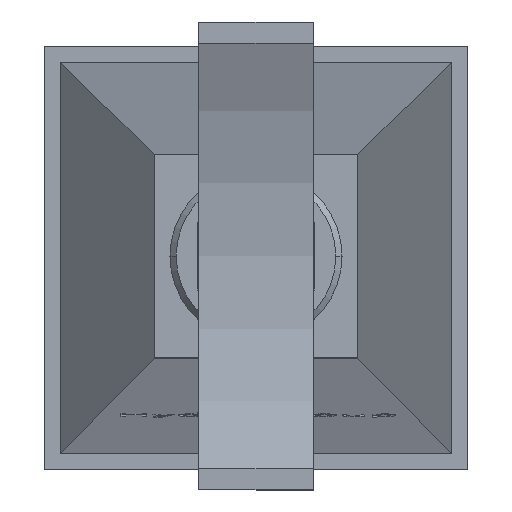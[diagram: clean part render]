
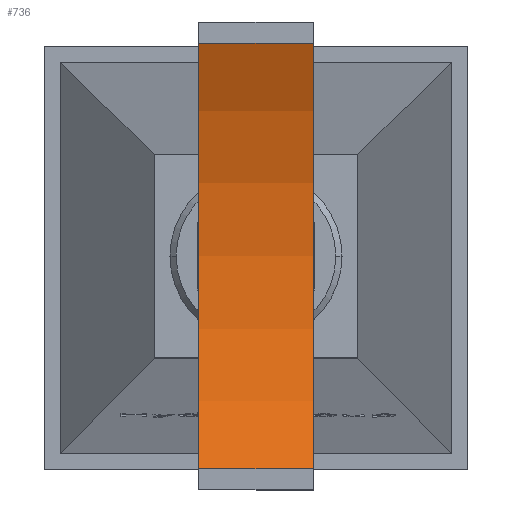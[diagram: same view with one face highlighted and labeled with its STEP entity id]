
A CAD part, top view. The second image highlights one B-rep face of the part: STEP entity #736.
In plain terms, the highlighted cylindrical face has radius 304.8 mm (diameter 609.6 mm), a partial arc.
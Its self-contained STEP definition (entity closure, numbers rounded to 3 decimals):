
#736=ADVANCED_FACE('',(#1458),#1459,.F.);
#1458=FACE_OUTER_BOUND('',#2205,.T.);
#1459=CYLINDRICAL_SURFACE('',#2206,304.8);
#2205=EDGE_LOOP('',(#4380,#4381,#4382,#4383));
#2206=AXIS2_PLACEMENT_3D('',#4384,#4385,#4386);
#4380=ORIENTED_EDGE('',*,*,#5190,.T.);
#4381=ORIENTED_EDGE('',*,*,#5191,.F.);
#4382=ORIENTED_EDGE('',*,*,#5192,.T.);
#4383=ORIENTED_EDGE('',*,*,#5187,.T.);
#4384=CARTESIAN_POINT('',(480.984,591.532,663.8));
#4385=DIRECTION('',(1.0,0.,0.));
#4386=DIRECTION('',(0.,1.0,0.));
#5187=EDGE_CURVE('',#6314,#6312,#6315,.T.);
#5190=EDGE_CURVE('',#6312,#6318,#6319,.T.);
#5191=EDGE_CURVE('',#6320,#6318,#6321,.T.);
#5192=EDGE_CURVE('',#6320,#6314,#6322,.T.);
#6312=VERTEX_POINT('',#8345);
#6314=VERTEX_POINT('',#8348);
#6315=LINE('',#8349,#8350);
#6318=VERTEX_POINT('',#8354);
#6319=CIRCLE('',#8355,304.8);
#6320=VERTEX_POINT('',#8356);
#6321=LINE('',#8357,#8358);
#6322=CIRCLE('',#8359,304.8);
#8345=CARTESIAN_POINT('',(553.984,455.579,391.));
#8348=CARTESIAN_POINT('',(480.984,455.579,391.));
#8349=CARTESIAN_POINT('',(480.984,455.579,391.));
#8350=VECTOR('',#9035,1.0);
#8354=CARTESIAN_POINT('',(553.984,727.485,391.));
#8355=AXIS2_PLACEMENT_3D('',#9037,#9038,#9039);
#8356=CARTESIAN_POINT('',(480.984,727.485,391.));
#8357=CARTESIAN_POINT('',(480.984,727.485,391.));
#8358=VECTOR('',#9040,1.0);
#8359=AXIS2_PLACEMENT_3D('',#9041,#9042,#9043);
#9035=DIRECTION('',(1.0,0.,0.));
#9037=CARTESIAN_POINT('',(553.984,591.532,663.8));
#9038=DIRECTION('',(1.0,0.,0.));
#9039=DIRECTION('',(0.,1.0,0.));
#9040=DIRECTION('',(1.0,0.,0.));
#9041=CARTESIAN_POINT('',(480.984,591.532,663.8));
#9042=DIRECTION('',(-1.0,0.,0.));
#9043=DIRECTION('',(0.,1.0,0.));
